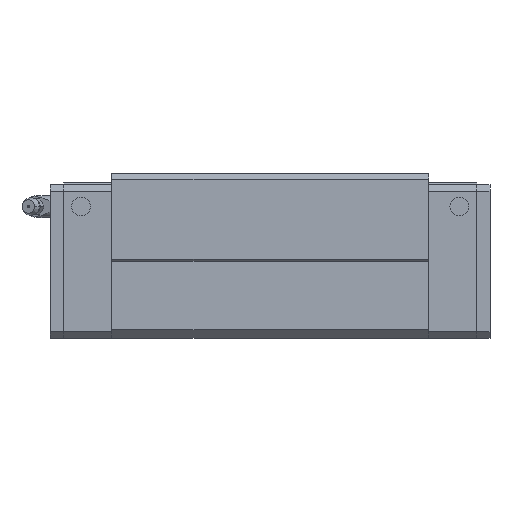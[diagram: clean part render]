
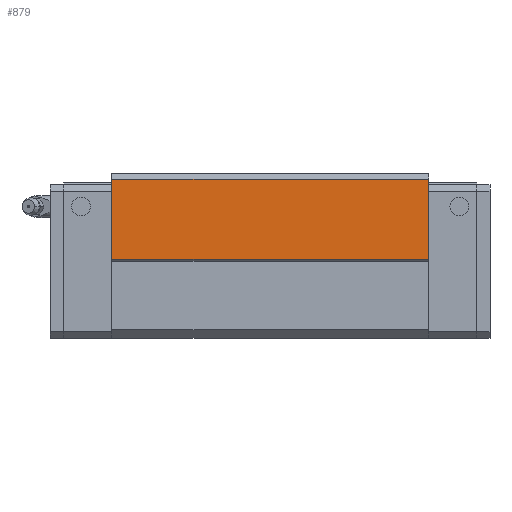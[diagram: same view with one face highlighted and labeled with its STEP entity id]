
A CAD part, front view. The second image highlights one B-rep face of the part: STEP entity #879.
In plain terms, the highlighted planar face has unit normal (0, -1, 0).
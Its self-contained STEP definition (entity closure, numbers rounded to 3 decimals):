
#818=CARTESIAN_POINT('POINT50',(172.2,-63.,
   36.));
#819=VERTEX_POINT('VERTEX50',#818);
#826=CARTESIAN_POINT('POINT51',(28.,-63.,36.
   ));
#827=VERTEX_POINT('VERTEX51',#826);
#828=CARTESIAN_POINT('POS85',(28.,-63.,36.))
   ;
#829=DIRECTION('DIR126',(1.,0.,0.));
#830=VECTOR('VEC44',#829,1.);
#831=LINE('STRAIGHT44',#828,#830);
#832=EDGE_CURVE('EDGE82',#827,#819,#831,.T.);
#849=CARTESIAN_POINT('POINT52',(172.2,-63.,
   72.5));
#850=VERTEX_POINT('VERTEX52',#849);
#851=CARTESIAN_POINT('POS88',(172.2,-63.,36.
   ));
#852=DIRECTION('DIR130',(0.,0.,1.));
#853=VECTOR('VEC46',#852,1.);
#854=LINE('STRAIGHT46',#851,#853);
#855=EDGE_CURVE('EDGE84',#819,#850,#854,.T.);
#856=ORIENTED_EDGE('COEDGE151',*,*,#855,.T.);
#857=CARTESIAN_POINT('POINT53',(28.,-63.,72.5
   ));
#858=VERTEX_POINT('VERTEX53',#857);
#859=CARTESIAN_POINT('POS89',(28.,-63.,72.5))
   ;
#860=DIRECTION('DIR131',(1.,0.,0.));
#861=VECTOR('VEC47',#860,1.);
#862=LINE('STRAIGHT47',#859,#861);
#863=EDGE_CURVE('EDGE85',#858,#850,#862,.T.);
#864=ORIENTED_EDGE('COEDGE152',*,*,#863,.F.);
#865=CARTESIAN_POINT('POS90',(28.,-63.,36.))
   ;
#866=DIRECTION('DIR132',(0.,0.,1.));
#867=VECTOR('VEC48',#866,1.);
#868=LINE('STRAIGHT48',#865,#867);
#869=EDGE_CURVE('EDGE86',#827,#858,#868,.T.);
#870=ORIENTED_EDGE('COEDGE153',*,*,#869,.F.);
#871=ORIENTED_EDGE('COEDGE154',*,*,#832,.T.);
#872=EDGE_LOOP('NONE',(#856,#864,#870,#871));
#873=FACE_BOUND('LOOP1',#872,.T.);
#874=CARTESIAN_POINT('POS91',(28.,-63.,36.))
   ;
#875=DIRECTION('DIR133',(0.,-1.,0.));
#876=DIRECTION('DIR134',(1.,0.,0.));
#877=AXIS2_PLACEMENT_3D('AXIS43',#874,#875,#876);
#878=PLANE('PLANE8',#877);
#879=ADVANCED_FACE('FACE40',(#873),#878,.T.);
